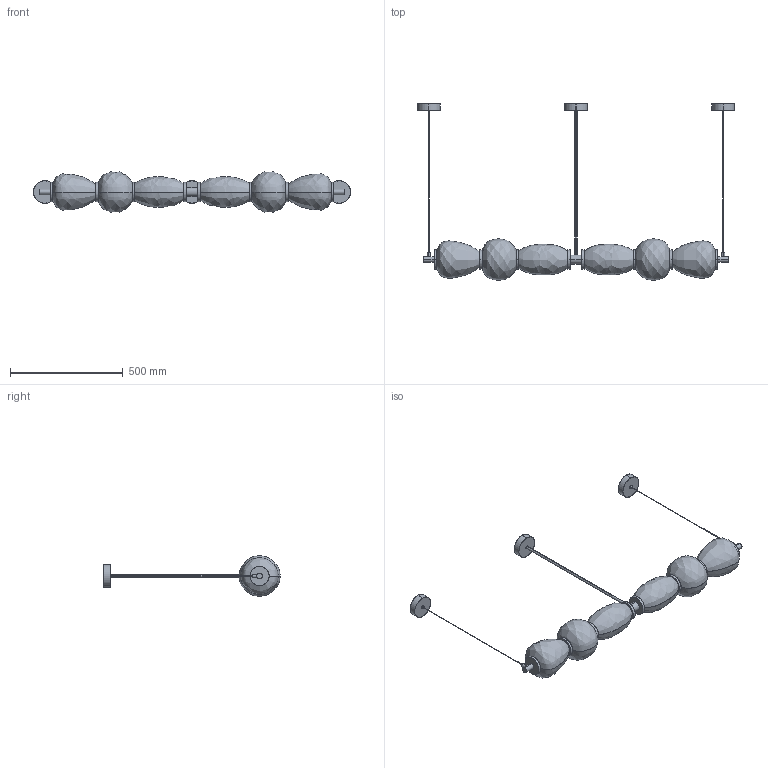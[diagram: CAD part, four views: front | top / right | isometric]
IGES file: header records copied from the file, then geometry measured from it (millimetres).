
Start section: SolidWorks IGES file using analytic representation for surfaces
Global section: file name: F:\燠隴矨\3D\2025-12\Alabaster Pebble Linear Chandelier.IGS,15; native system: HSolidWorks 2022; preprocessor: SolidWorks 2022; author: MyPC; date: 251202.113441; units: millimetre
Bounding box: 1403.23 x 781.02 x 179.39 mm (x, y, z)
Surface area: 863910.9 mm2 (no closed solid volume)
Topology: 0 solids, 0 shells, 125 faces, 3536 edges, 3536 vertices
Faces by surface type: bspline 69, revolution 56
